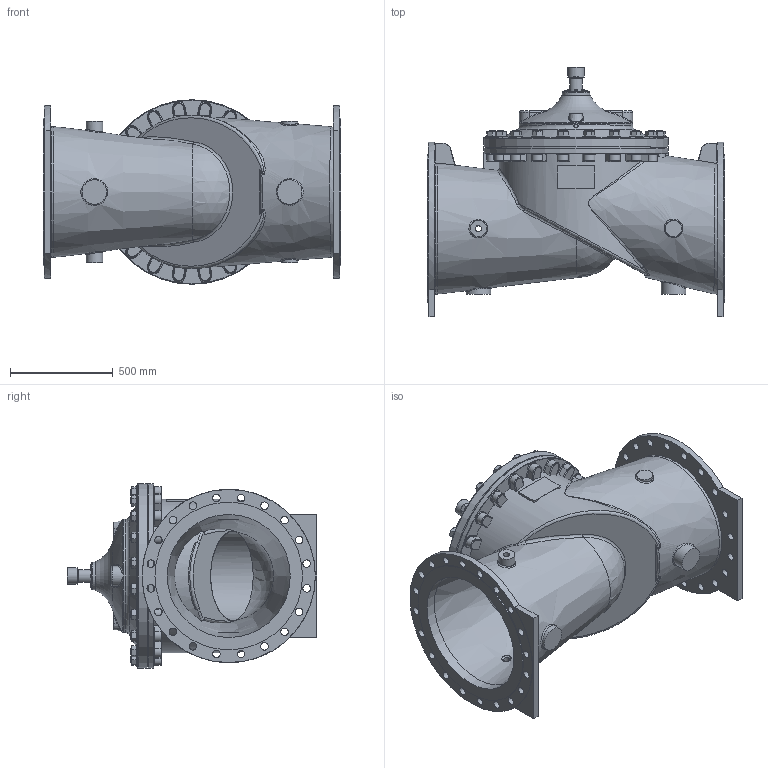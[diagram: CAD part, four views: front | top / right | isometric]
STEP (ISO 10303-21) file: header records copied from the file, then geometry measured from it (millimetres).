
FILE_DESCRIPTION(/* description */ (''),/* implementation_level */ '2;1');
FILE_NAME(/* name */ 'G:\Doc_Liberes\SymbolesCAD\Modeles_3D\FichierSTP\VanneDeBase\NGE600-16RF.stp',/* time_stamp */ '2023-08-17T14:51:48+02:00',/* author */ ('marc'),/* organization */ (''),/* preprocessor_version */ 'ST-DEVELOPER v18.1',/* originating_system */ 'Autodesk Inventor 2022',/* authorisation */ '');
FILE_SCHEMA (('AUTOMOTIVE_DESIGN { 1 0 10303 214 3 1 1 }'));
Products named in the file (1): nge600-16_Simplifier_1
Bounding box: 1450 x 1218.45 x 900 mm (x, y, z)
Volume: 122361969.2 mm3; surface area: 10646442.2 mm2
Topology: 1 solids, 1 shells, 2226 faces, 5877 edges, 3737 vertices
Faces by surface type: cone 940, plane 788, cylinder 314, bspline 90, torus 87, sphere 7
Full cylindrical faces by diameter (mm): 14.287 x8, 20.637 x8, 22.05 x4, 30.29 x2, 31.75 x40, 35 x20, 37 x40, 60.3 x1, 63.5 x21, 66.68 x1, 80 x5, 120 x2, 134.9 x1, 440 x1, 478 x1, 495 x1, 520.5 x1, 521 x1, 552 x1, 600 x2, 720 x2, 845 x2, 879.25 x1, 881.9 x1, 899 x1, 900 x1
Entity records: 80469 total; most frequent: CARTESIAN_POINT 28007, ORIENTED_EDGE 11712, DIRECTION 10684, EDGE_CURVE 5856, AXIS2_PLACEMENT_3D 4917, VERTEX_POINT 3737, CIRCLE 2744, EDGE_LOOP 2469
